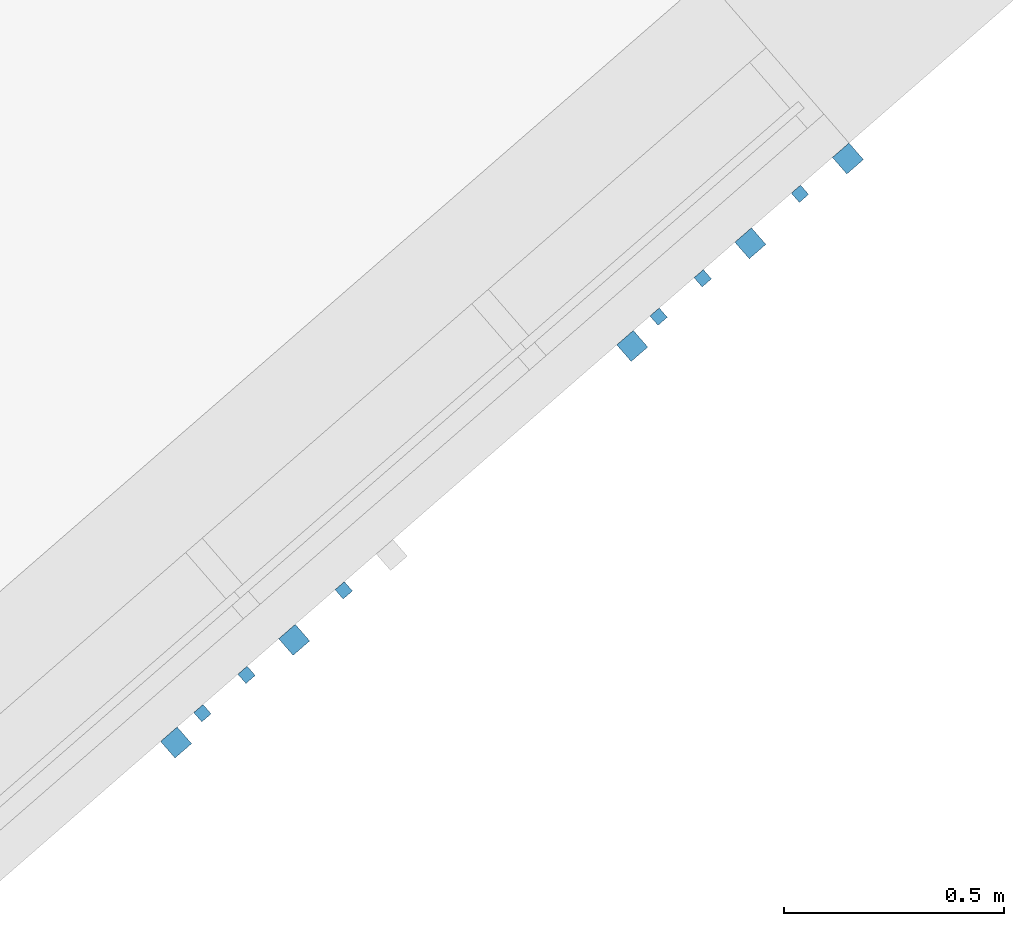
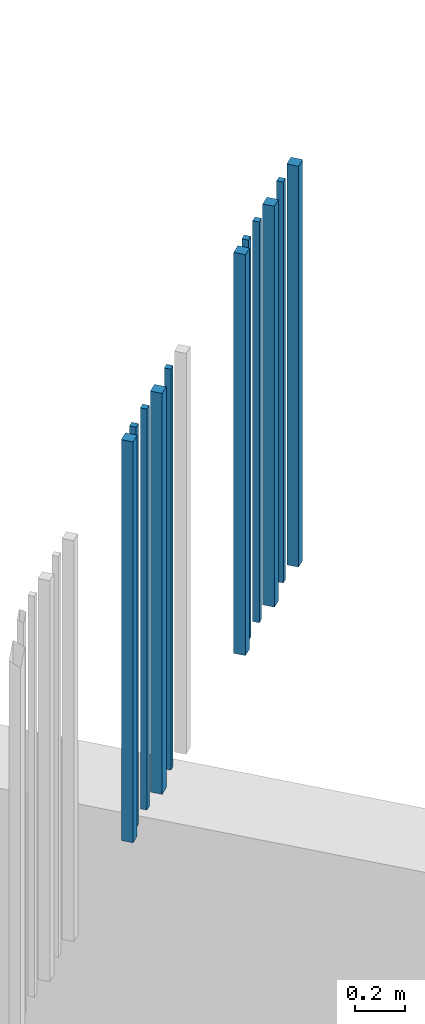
# One storey, part 76 of 124: 11 walls.
"""IFC2X3 building model written with IfcOpenShell, lengths in millimetres."""

from ifc_helpers import new_model, entity, si_unit, converted_unit, derived_unit, money_unit, direction, frame, origin_with_axes, place, context, subcontext, project, spatial, faceted_brep, material, type_object, element, save


model = new_model("IFC2X3")

# Units and contexts
model_context = context("Model", 3, precision=1e-05, world=origin_with_axes(), true_north=direction((0.0, 1.0)))
body_context = subcontext(model_context, "Body", "Model", "MODEL_VIEW")
ifc_project = project(units=[si_unit("LENGTHUNIT", "METRE", prefix="MILLI"), si_unit("AREAUNIT", "SQUARE_METRE"), si_unit("VOLUMEUNIT", "CUBIC_METRE"), converted_unit("PLANEANGLEUNIT", "DEGREE", entity("IfcPlaneAngleMeasure", 0.0174532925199), si_unit("PLANEANGLEUNIT", "RADIAN"), dimensions=[0, 0, 0, 0, 0, 0, 0]), si_unit("SOLIDANGLEUNIT", "STERADIAN"), money_unit("EUR"), converted_unit("TIMEUNIT", "Year", entity("IfcTimeMeasure", 31556926.0), si_unit("TIMEUNIT", "SECOND"), dimensions=[0, 0, 1, 0, 0, 0, 0]), si_unit("MASSUNIT", "GRAM", prefix="KILO"), si_unit("THERMODYNAMICTEMPERATUREUNIT", "DEGREE_CELSIUS"), si_unit("LUMINOUSINTENSITYUNIT", "LUMEN"), si_unit("ENERGYUNIT", "JOULE", prefix="MEGA"), derived_unit("THERMALCONDUCTANCEUNIT", [(si_unit("POWERUNIT", "WATT"), 1), (si_unit("LENGTHUNIT", "METRE"), -1), (si_unit("THERMODYNAMICTEMPERATUREUNIT", "KELVIN"), -1)]), derived_unit("SPECIFICHEATCAPACITYUNIT", [(si_unit("ENERGYUNIT", "JOULE"), 1), (si_unit("MASSUNIT", "GRAM", prefix="KILO"), -1), (si_unit("THERMODYNAMICTEMPERATUREUNIT", "KELVIN"), -1)]), derived_unit("MASSDENSITYUNIT", [(si_unit("MASSUNIT", "GRAM", prefix="KILO"), 1), (si_unit("VOLUMEUNIT", "CUBIC_METRE"), -1)])], contexts=[model_context])

# Site, building, storey
site_placement = place(None, origin_with_axes())
site = spatial("IfcSite", under=ifc_project, at=site_placement, Name="Site", CompositionType="ELEMENT")
building_placement = place(site_placement, origin_with_axes())
building = spatial("IfcBuilding", under=site, at=building_placement, Name="Building", CompositionType="ELEMENT")
storey_placement = place(building_placement, frame((0.0, 0.0, -1615.0), z_axis=(0.0, 0.0, 1.0), x_axis=(1.0, 0.0, 0.0)))
storey = spatial("IfcBuildingStorey", under=building, at=storey_placement, Name="0  korrus", CompositionType="ELEMENT", Elevation=-1615.0)

# Walls
ifc_material = material(Name="Site specified")
wall_type = type_object("IfcWallType", Name="Puitfassaadi ribistik", PredefinedType="NOTDEFINED")
for number, where, z_axis, x_axis, name in (
    (1, (170981.14515, 93276.8336948, 9530.0), (0.0, 0.0, 1.0), (-0.754709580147, -0.656059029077, 0.0), "Site specified"),
    (2, (170659.638891, 92997.352568, 9530.0), (0.0, 0.0, 1.0), (-0.754709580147, -0.656059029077, 0.0), "Site specified"),
    (3, (170760.015265, 93084.6084183, 9530.0), (0.0, 0.0, 1.0), (-0.754709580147, -0.656059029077, 0.0), "Site specified"),
):
    element("IfcWall", number, at=place(storey_placement, frame(where, z_axis=z_axis, x_axis=x_axis)), inside=storey, type_object=wall_type, material=ifc_material, Name=name, context=body_context, shape_type="Brep", body=[
        faceted_brep([(14.0, 14.0, 1950.0), (14.0, 14.0, 0.0), (-14.0, 14.0, 0.0), (-14.0, 14.0, 1950.0), (14.0, -14.0, 1950.0), (14.0, -14.0, 0.0), (-14.0, -14.0, 0.0), (-14.0, -14.0, 1950.0)], [[[0, 1, 2, 3]], [[4, 5, 1, 0]], [[2, 1, 5, 6]], [[3, 2, 6, 7]], [[4, 0, 3, 7]], [[7, 6, 5, 4]]]),
    ])
wall_1_placement = place(storey_placement, frame((170599.683995, 92930.659429, 9530.0), z_axis=(0.0, 0.0, 1.0), x_axis=(-0.754709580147, -0.656059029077, 0.0)))
element("IfcWall", 4, at=wall_1_placement, inside=storey, type_object=wall_type, material=ifc_material, Name="Site specified", context=body_context, shape_type="Brep", body=[
    faceted_brep([(25.0, 25.0, 1950.0), (25.0, 25.0, 0.0), (-25.0, 25.0, 0.0), (-25.0, 25.0, 1950.0), (25.0, -25.0, 1950.0), (25.0, -25.0, 0.0), (-25.0, -25.0, 0.0), (-25.0, -25.0, 1950.0)], [[[0, 1, 2, 3]], [[4, 5, 1, 0]], [[2, 1, 5, 6]], [[3, 2, 6, 7]], [[4, 0, 3, 7]], [[7, 6, 5, 4]]]),
])
wall_2_placement = place(storey_placement, frame((170868.364857, 93164.2201392, 9530.0), z_axis=(0.0, 0.0, 1.0), x_axis=(-0.754709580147, -0.656059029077, 0.0)))
element("IfcWall", 5, at=wall_2_placement, inside=storey, type_object=wall_type, material=ifc_material, Name="Site specified", context=body_context, shape_type="Brep", body=[
    faceted_brep([(25.0, 25.0, 1950.0), (25.0, 25.0, 0.0), (-25.0, 25.0, 0.0), (-25.0, 25.0, 1950.0), (25.0, -25.0, 1950.0), (25.0, -25.0, 0.0), (-24.9999999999, -25.0, 0.0), (-24.9999999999, -25.0, 1950.0)], [[[0, 1, 2, 3]], [[4, 5, 1, 0]], [[2, 1, 5, 6]], [[3, 2, 6, 7]], [[4, 0, 3, 7]], [[7, 6, 5, 4]]]),
])
wall_3_placement = place(storey_placement, frame((172127.975145, 94259.1826572, 9530.0), z_axis=(0.0, 0.0, 1.0), x_axis=(-0.754709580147, -0.656059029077, 0.0)))
element("IfcWall", 6, at=wall_3_placement, inside=storey, type_object=wall_type, material=ifc_material, Name="Site specified", context=body_context, shape_type="Brep", body=[
    faceted_brep([(25.0, 25.0, 1950.0), (25.0, 25.0, 0.0), (-25.0, 25.0, 0.0), (-25.0, 25.0, 1950.0), (25.0, -25.0, 1950.0), (25.0, -25.0, 0.0), (-25.0, -25.0, 0.0), (-25.0, -25.0, 1950.0)], [[[0, 1, 2, 3]], [[4, 5, 1, 0]], [[2, 1, 5, 6]], [[3, 2, 6, 7]], [[4, 0, 3, 7]], [[7, 6, 5, 4]]]),
])
for number, where, z_axis, x_axis, name in (
    (7, (172018.870823, 94178.9148598, 9530.0), (0.0, 0.0, 1.0), (-0.754709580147, -0.656059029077, 0.0), "Site specified"),
    (8, (171697.364564, 93899.4337329, 9530.0), (0.0, 0.0, 1.0), (-0.754709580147, -0.656059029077, 0.0), "Site specified"),
    (9, (171797.740938, 93986.6895832, 9530.0), (0.0, 0.0, 1.0), (-0.754709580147, -0.656059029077, 0.0), "Site specified"),
):
    element("IfcWall", number, at=place(storey_placement, frame(where, z_axis=z_axis, x_axis=x_axis)), inside=storey, type_object=wall_type, material=ifc_material, Name=name, context=body_context, shape_type="Brep", body=[
        faceted_brep([(14.0, 14.0, 1950.0), (14.0, 14.0, 0.0), (-14.0, 14.0, 0.0), (-14.0, 14.0, 1950.0), (14.0, -14.0, 1950.0), (14.0, -14.0, 0.0), (-14.0, -14.0, 0.0), (-14.0, -14.0, 1950.0)], [[[0, 1, 2, 3]], [[4, 5, 1, 0]], [[2, 1, 5, 6]], [[3, 2, 6, 7]], [[4, 0, 3, 7]], [[7, 6, 5, 4]]]),
    ])
for number, where, z_axis, x_axis, name in (
    (10, (171637.409668, 93832.7405939, 9530.0), (0.0, 0.0, 1.0), (-0.754709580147, -0.656059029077, 0.0), "Site specified"),
    (11, (171906.09053, 94066.3013041, 9530.0), (0.0, 0.0, 1.0), (-0.754709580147, -0.656059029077, 0.0), "Site specified"),
):
    element("IfcWall", number, at=place(storey_placement, frame(where, z_axis=z_axis, x_axis=x_axis)), inside=storey, type_object=wall_type, material=ifc_material, Name=name, context=body_context, shape_type="Brep", body=[
        faceted_brep([(25.0, 25.0, 1950.0), (25.0, 25.0, 0.0), (-25.0, 25.0, 0.0), (-25.0, 25.0, 1950.0), (25.0, -25.0, 1950.0), (25.0, -25.0, 0.0), (-25.0, -25.0, 0.0), (-25.0, -25.0, 1950.0)], [[[0, 1, 2, 3]], [[4, 5, 1, 0]], [[2, 1, 5, 6]], [[3, 2, 6, 7]], [[4, 0, 3, 7]], [[7, 6, 5, 4]]]),
    ])

save(model, "model.ifc")
